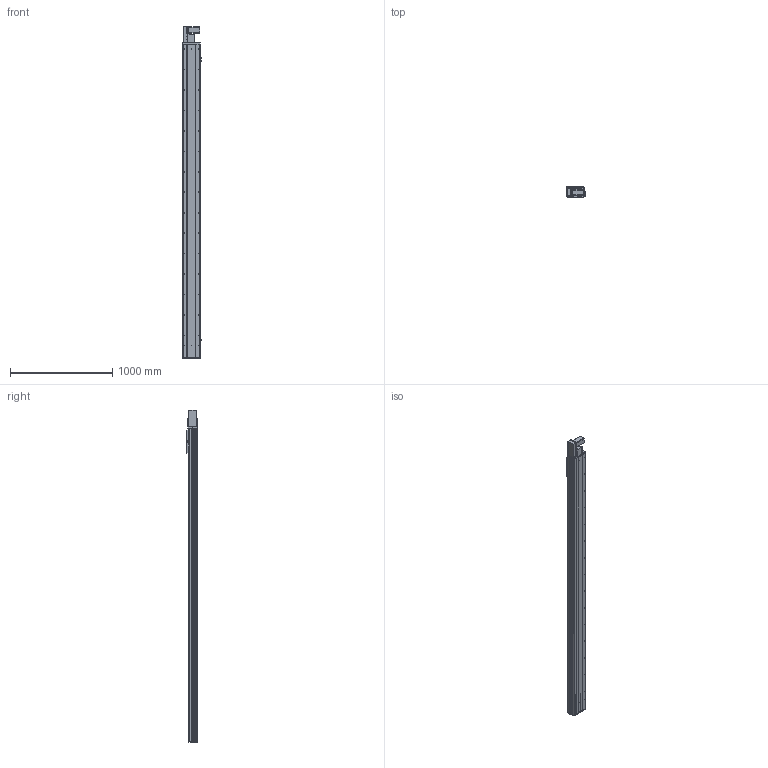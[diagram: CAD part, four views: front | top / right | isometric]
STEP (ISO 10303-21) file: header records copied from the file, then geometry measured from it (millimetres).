
FILE_DESCRIPTION (( 'STEP AP203' ), '1' );
FILE_NAME ('Y170CB-D105-S2750-BL-P400W.STEP', '2020-02-20T01:52:59', ( '微软用户' ), ( '微软中国' ), 'SwSTEP 2.0', 'SolidWorks 2017', '' );
FILE_SCHEMA (( 'CONFIG_CONTROL_DESIGN' ));
Length unit declared in the file: millimetre
Products named in the file (18): --70CB --喘謫眊楊擘啣-; 70B喘謫眊----; 70CB-耜裔啣-; Y1埴倛裔; 70C--詩湍揤踡え-; B-源倛裔啣; Y170CB-D105-S2750-BL-P400W; 70CB--耜裔; 17B-耜蚾蟀諉啣----; 70C-雄赽釱-奻-; 0B-萇儂楊擘啣; 0C--雄赽釱俋欶-170; san松下电机400不带刹车----; 70CB-詩湍--; Y70俋欶BR----; Y100-135俋离換覜ん--; 70CB-掛极-; Y170CB-陔俋离換覜結え---
Assembly tree (21 placements, depth 2):
  Y170CB-D105-S2750-BL-P400W
    B-源倛裔啣
    17B-耜蚾蟀諉啣----
    0B-萇儂楊擘啣
    san松下电机400不带刹车----
    Y70俋欶BR----
    70CB-掛极-
    --70CB --喘謫眊楊擘啣-
    70CB-耜裔啣-  x2
    70C--詩湍揤踡え-  x2
    70CB--耜裔
    70C-雄赽釱-奻-
    0C--雄赽釱俋欶-170
    70CB-詩湍--
    Y100-135俋离換覜ん--  x3
    Y170CB-陔俋离換覜結え---
    70B喘謫眊----
    Y1埴倛裔
Bounding box: 183.5 x 107 x 3247 mm (x, y, z)
Volume: 13427654.4 mm3; surface area: 4850127.3 mm2
Topology: 21 solids, 21 shells, 1079 faces, 2909 edges, 1930 vertices
Faces by surface type: cylinder 591, plane 464, cone 24
Entity records: 34656 total; most frequent: CARTESIAN_POINT 6396, DIRECTION 5638, ORIENTED_EDGE 5300, EDGE_CURVE 2650, AXIS2_PLACEMENT_3D 2084, VERTEX_POINT 1760, LINE 1470, VECTOR 1470
